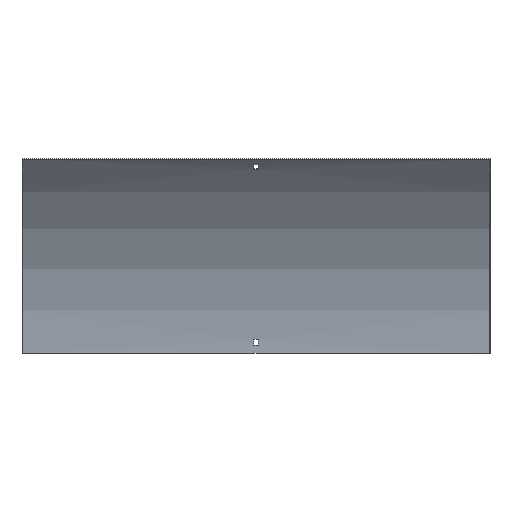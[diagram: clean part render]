
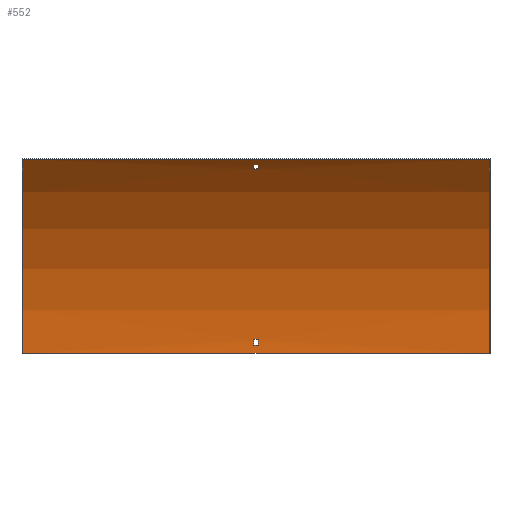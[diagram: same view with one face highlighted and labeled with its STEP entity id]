
A CAD part, front view. The second image highlights one B-rep face of the part: STEP entity #552.
In plain terms, the highlighted cylindrical face has radius 412.5 mm (diameter 825 mm), a partial arc.
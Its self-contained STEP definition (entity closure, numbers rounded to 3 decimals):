
#4 = CARTESIAN_POINT ( 'NONE',  ( 3.25, -414., 0. ) ) ;
#8 = VERTEX_POINT ( 'NONE', #212 ) ;
#10 = EDGE_CURVE ( 'NONE', #243, #60, #175, .T. ) ;
#15 = CARTESIAN_POINT ( 'NONE',  ( 3.25, -113.957, 283.073 ) ) ;
#17 = CIRCLE ( 'NONE', #505, 412.5 ) ;
#22 = CARTESIAN_POINT ( 'NONE',  ( 3.25, -2.035, 21. ) ) ;
#28 = ORIENTED_EDGE ( 'NONE', *, *, #10, .T. ) ;
#35 = EDGE_CURVE ( 'NONE', #226, #287, #440, .T. ) ;
#38 = ORIENTED_EDGE ( 'NONE', *, *, #216, .F. ) ;
#48 = VECTOR ( 'NONE', #201, 1000. ) ;
#56 = CARTESIAN_POINT ( 'NONE',  ( -3.25, -2.035, 21. ) ) ;
#60 = VERTEX_POINT ( 'NONE', #291 ) ;
#86 = VERTEX_POINT ( 'NONE', #15 ) ;
#91 = VERTEX_POINT ( 'NONE', #22 ) ;
#99 = CARTESIAN_POINT ( 'NONE',  ( -3.25, -414., 0. ) ) ;
#101 = DIRECTION ( 'NONE',  ( 0., 0., -1. ) ) ;
#108 = CARTESIAN_POINT ( 'NONE',  ( -3.25, -414., 0. ) ) ;
#109 = EDGE_LOOP ( 'NONE', ( #38, #264, #392, #312 ) ) ;
#124 = CARTESIAN_POINT ( 'NONE',  ( 350., -122.318, 291.682 ) ) ;
#126 = ORIENTED_EDGE ( 'NONE', *, *, #575, .T. ) ;
#129 = ORIENTED_EDGE ( 'NONE', *, *, #35, .T. ) ;
#130 = AXIS2_PLACEMENT_3D ( 'NONE', #4, #322, #365 ) ;
#131 = DIRECTION ( 'NONE',  ( -1., 0., 0. ) ) ;
#132 = LINE ( 'NONE', #316, #438 ) ;
#138 = CARTESIAN_POINT ( 'NONE',  ( 3.25, -414., 0. ) ) ;
#141 = CARTESIAN_POINT ( 'NONE',  ( -3.25, -1.675, 12. ) ) ;
#146 = ORIENTED_EDGE ( 'NONE', *, *, #418, .F. ) ;
#147 = DIRECTION ( 'NONE',  ( 0., 0., -1. ) ) ;
#153 = CARTESIAN_POINT ( 'NONE',  ( 350., -122.318, 291.682 ) ) ;
#154 = VERTEX_POINT ( 'NONE', #469 ) ;
#156 = DIRECTION ( 'NONE',  ( 0., 0., -1. ) ) ;
#159 = CARTESIAN_POINT ( 'NONE',  ( 350., -1.5, 0. ) ) ;
#172 = EDGE_CURVE ( 'NONE', #60, #154, #17, .T. ) ;
#175 = LINE ( 'NONE', #389, #554 ) ;
#179 = ORIENTED_EDGE ( 'NONE', *, *, #328, .F. ) ;
#187 = DIRECTION ( 'NONE',  ( 0., 0., 1. ) ) ;
#190 = VECTOR ( 'NONE', #377, 1000. ) ;
#194 = EDGE_CURVE ( 'NONE', #219, #91, #282, .T. ) ;
#201 = DIRECTION ( 'NONE',  ( -1., 0., 0. ) ) ;
#212 = CARTESIAN_POINT ( 'NONE',  ( -350., -1.5, 0. ) ) ;
#216 = EDGE_CURVE ( 'NONE', #220, #464, #472, .T. ) ;
#217 = DIRECTION ( 'NONE',  ( -1., 0., 0. ) ) ;
#219 = VERTEX_POINT ( 'NONE', #523 ) ;
#220 = VERTEX_POINT ( 'NONE', #56 ) ;
#222 = EDGE_CURVE ( 'NONE', #353, #226, #408, .T. ) ;
#226 = VERTEX_POINT ( 'NONE', #153 ) ;
#229 = CIRCLE ( 'NONE', #477, 412.5 ) ;
#243 = VERTEX_POINT ( 'NONE', #563 ) ;
#254 = AXIS2_PLACEMENT_3D ( 'NONE', #437, #492, #383 ) ;
#264 = ORIENTED_EDGE ( 'NONE', *, *, #411, .F. ) ;
#267 = LINE ( 'NONE', #588, #410 ) ;
#282 = CIRCLE ( 'NONE', #130, 412.5 ) ;
#287 = VERTEX_POINT ( 'NONE', #497 ) ;
#291 = CARTESIAN_POINT ( 'NONE',  ( -3.25, -107.847, 276.454 ) ) ;
#307 = EDGE_CURVE ( 'NONE', #464, #219, #585, .T. ) ;
#310 = ORIENTED_EDGE ( 'NONE', *, *, #222, .T. ) ;
#312 = ORIENTED_EDGE ( 'NONE', *, *, #307, .F. ) ;
#316 = CARTESIAN_POINT ( 'NONE',  ( 351.5, -2.035, 21. ) ) ;
#322 = DIRECTION ( 'NONE',  ( 1., 0., 0. ) ) ;
#327 = AXIS2_PLACEMENT_3D ( 'NONE', #108, #473, #363 ) ;
#328 = EDGE_CURVE ( 'NONE', #8, #287, #504, .T. ) ;
#339 = DIRECTION ( 'NONE',  ( -1., 0., 0. ) ) ;
#344 = CARTESIAN_POINT ( 'NONE',  ( 351.5, -1.675, 12. ) ) ;
#350 = CARTESIAN_POINT ( 'NONE',  ( 350., -1.5, 0. ) ) ;
#353 = VERTEX_POINT ( 'NONE', #159 ) ;
#363 = DIRECTION ( 'NONE',  ( 0., 0., 1. ) ) ;
#365 = DIRECTION ( 'NONE',  ( 0., 0., -1. ) ) ;
#376 = EDGE_LOOP ( 'NONE', ( #28, #573, #396, #126 ) ) ;
#377 = DIRECTION ( 'NONE',  ( 1., 0., 0. ) ) ;
#383 = DIRECTION ( 'NONE',  ( 0., 0., 1. ) ) ;
#389 = CARTESIAN_POINT ( 'NONE',  ( 351.5, -107.847, 276.454 ) ) ;
#392 = ORIENTED_EDGE ( 'NONE', *, *, #194, .F. ) ;
#396 = ORIENTED_EDGE ( 'NONE', *, *, #436, .T. ) ;
#399 = DIRECTION ( 'NONE',  ( -1., 0., 0. ) ) ;
#408 = CIRCLE ( 'NONE', #541, 412.5 ) ;
#410 = VECTOR ( 'NONE', #462, 1000. ) ;
#411 = EDGE_CURVE ( 'NONE', #91, #220, #132, .T. ) ;
#418 = EDGE_CURVE ( 'NONE', #353, #8, #599, .T. ) ;
#419 = DIRECTION ( 'NONE',  ( 1., 0., 0. ) ) ;
#436 = EDGE_CURVE ( 'NONE', #154, #86, #267, .T. ) ;
#437 = CARTESIAN_POINT ( 'NONE',  ( 351.5, -414., 0. ) ) ;
#438 = VECTOR ( 'NONE', #217, 1000. ) ;
#440 = LINE ( 'NONE', #124, #48 ) ;
#443 = CARTESIAN_POINT ( 'NONE',  ( -350., -414., 0. ) ) ;
#447 = FACE_BOUND ( 'NONE', #376, .T. ) ;
#462 = DIRECTION ( 'NONE',  ( 1., 0., 0. ) ) ;
#464 = VERTEX_POINT ( 'NONE', #141 ) ;
#469 = CARTESIAN_POINT ( 'NONE',  ( -3.25, -113.957, 283.073 ) ) ;
#472 = CIRCLE ( 'NONE', #327, 412.5 ) ;
#473 = DIRECTION ( 'NONE',  ( -1., 0., 0. ) ) ;
#477 = AXIS2_PLACEMENT_3D ( 'NONE', #138, #131, #187 ) ;
#482 = CARTESIAN_POINT ( 'NONE',  ( 350., -414., 0. ) ) ;
#487 = CYLINDRICAL_SURFACE ( 'NONE', #254, 412.5 ) ;
#492 = DIRECTION ( 'NONE',  ( -1., 0., 0. ) ) ;
#497 = CARTESIAN_POINT ( 'NONE',  ( -350., -122.318, 291.682 ) ) ;
#504 = CIRCLE ( 'NONE', #548, 412.5 ) ;
#505 = AXIS2_PLACEMENT_3D ( 'NONE', #99, #419, #147 ) ;
#508 = EDGE_LOOP ( 'NONE', ( #179, #146, #310, #129 ) ) ;
#523 = CARTESIAN_POINT ( 'NONE',  ( 3.25, -1.675, 12. ) ) ;
#529 = FACE_OUTER_BOUND ( 'NONE', #508, .T. ) ;
#537 = VECTOR ( 'NONE', #399, 1000. ) ;
#541 = AXIS2_PLACEMENT_3D ( 'NONE', #482, #566, #101 ) ;
#548 = AXIS2_PLACEMENT_3D ( 'NONE', #443, #572, #156 ) ;
#552 = ADVANCED_FACE ( 'NONE', ( #584, #529, #447 ), #487, .F. ) ;
#554 = VECTOR ( 'NONE', #339, 1000. ) ;
#563 = CARTESIAN_POINT ( 'NONE',  ( 3.25, -107.847, 276.454 ) ) ;
#566 = DIRECTION ( 'NONE',  ( 1., 0., 0. ) ) ;
#572 = DIRECTION ( 'NONE',  ( 1., 0., 0. ) ) ;
#573 = ORIENTED_EDGE ( 'NONE', *, *, #172, .T. ) ;
#575 = EDGE_CURVE ( 'NONE', #86, #243, #229, .T. ) ;
#584 = FACE_BOUND ( 'NONE', #109, .T. ) ;
#585 = LINE ( 'NONE', #344, #190 ) ;
#588 = CARTESIAN_POINT ( 'NONE',  ( 351.5, -113.957, 283.073 ) ) ;
#599 = LINE ( 'NONE', #350, #537 ) ;
